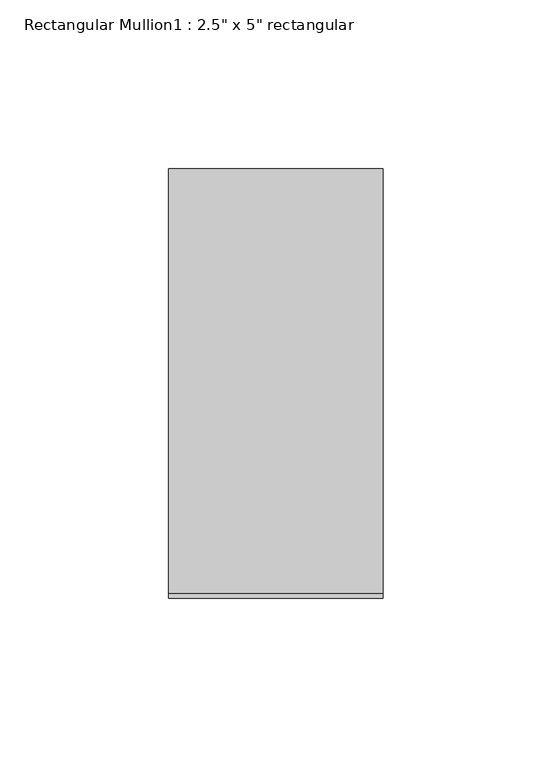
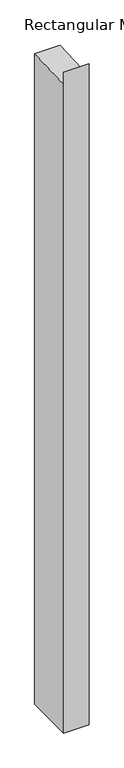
"""IFC4 building model written with IfcOpenShell, lengths in millimetres: member geometry."""

from ifc_helpers import new_model, si_unit, frame, origin, place, context, project, spatial, polyline, outline, extrude, source, transform, mapped, element, save


def member_0a0eb772(model_context):
    return source(origin(), model_context, "Body", "SweptSolid", [
        extrude(outline(polyline([(-63.5, 30.4748075), (-62.1741259, -2.5237591), (63.5, 2.5257955), (63.5, -1733.5500228), (-63.5, -1733.5500228), (-63.5, 30.4748075)])), frame((-63.5, 0.0, 0.0), z_axis=(1.0, 0.0, 0.0), x_axis=(0.0, 1.0, 0.0)), (0.0, 0.0, 1.0), 63.5),
    ])


if __name__ == "__main__":
    model = new_model("IFC4")
    model_context = context("Model", 3, world=origin())
    ifc_project = project(units=[si_unit("LENGTHUNIT", "METRE", prefix="MILLI")], contexts=[model_context])
    site = spatial("IfcSite", under=ifc_project)
    building = spatial("IfcBuilding", under=site)
    placement = place(None, origin())
    member_shape = member_0a0eb772(model_context)
    element("IfcMember", 1, ObjectType="Rectangular Mullion1 : 2.5\" x 5\" rectangular", at=placement, inside=building, context=model_context, shape_type="MappedRepresentation", body=[
        mapped(member_shape, transform((0.0, 0.0, 0.0), x_axis=(1.0, 0.0, 0.0), y_axis=(0.0, 1.0, 0.0), z_axis=(0.0, 0.0, 1.0))),
    ])
    save(model, "model.ifc")
